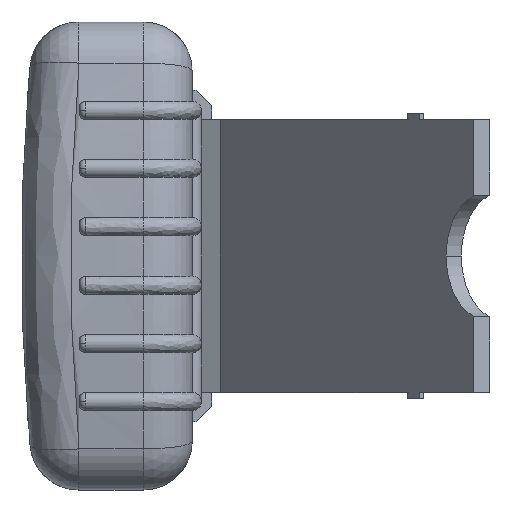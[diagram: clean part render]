
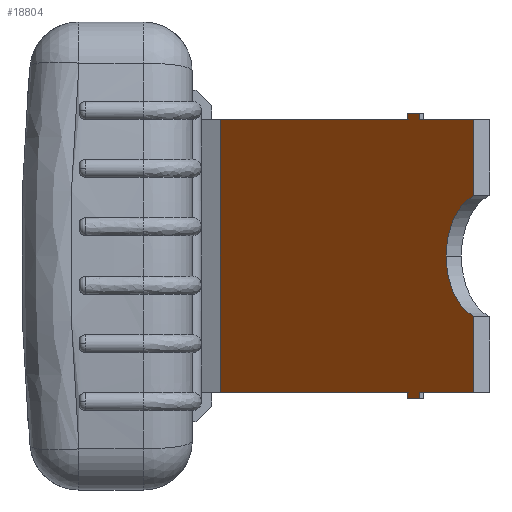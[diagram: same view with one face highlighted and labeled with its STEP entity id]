
A CAD part, left-side view. The second image highlights one B-rep face of the part: STEP entity #18804.
In plain terms, the highlighted planar face has unit normal (-0.625, 0.781, 0) as drawn and (0, -1, 0) by its records, which use the part's own axes.
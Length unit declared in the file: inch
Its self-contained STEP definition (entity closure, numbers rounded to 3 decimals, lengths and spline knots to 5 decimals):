
#39 = VECTOR ( 'NONE', #4089, 39.37008 ) ;
#89 = DIRECTION ( 'NONE',  ( 0., 0., -1. ) ) ;
#385 = VERTEX_POINT ( 'NONE', #7108 ) ;
#402 = DIRECTION ( 'NONE',  ( 0., 0., -1. ) ) ;
#414 = VECTOR ( 'NONE', #14756, 39.37008 ) ;
#417 = DIRECTION ( 'NONE',  ( 0., 0., -1. ) ) ;
#499 = EDGE_LOOP ( 'NONE', ( #8952, #19107, #3227, #3693, #5605, #21690, #9139, #8688, #21035, #5328, #14258, #5386, #16907, #17677, #7363 ) ) ;
#701 = LINE ( 'NONE', #20846, #9585 ) ;
#902 = VERTEX_POINT ( 'NONE', #12281 ) ;
#1197 = EDGE_CURVE ( 'NONE', #902, #385, #11917, .T. ) ;
#1366 = CARTESIAN_POINT ( 'NONE',  ( 0.915, -0.0625, -0.76923 ) ) ;
#2218 = CARTESIAN_POINT ( 'NONE',  ( -0.875, -0.0625, 1.271 ) ) ;
#2350 = LINE ( 'NONE', #14943, #6261 ) ;
#2401 = CARTESIAN_POINT ( 'NONE',  ( 0.915, -0.0625, -0.64423 ) ) ;
#2477 = DIRECTION ( 'NONE',  ( -1., 0., 0. ) ) ;
#2597 = LINE ( 'NONE', #3785, #19350 ) ;
#2702 = CARTESIAN_POINT ( 'NONE',  ( 0.875, -0.0625, 1.271 ) ) ;
#3159 = VECTOR ( 'NONE', #89, 39.37008 ) ;
#3227 = ORIENTED_EDGE ( 'NONE', *, *, #6380, .T. ) ;
#3398 = CARTESIAN_POINT ( 'NONE',  ( -1., -0.0625, -1.32549 ) ) ;
#3507 = VECTOR ( 'NONE', #13217, 39.37008 ) ;
#3649 = VERTEX_POINT ( 'NONE', #5104 ) ;
#3693 = ORIENTED_EDGE ( 'NONE', *, *, #12924, .T. ) ;
#3713 = CARTESIAN_POINT ( 'NONE',  ( 0., -0.0625, -1.45029 ) ) ;
#3785 = CARTESIAN_POINT ( 'NONE',  ( -0.875, -0.0625, 1.3435 ) ) ;
#3926 = VECTOR ( 'NONE', #6245, 39.37008 ) ;
#4073 = EDGE_CURVE ( 'NONE', #11611, #3649, #18885, .T. ) ;
#4089 = DIRECTION ( 'NONE',  ( 0., 0., -1. ) ) ;
#4290 = VERTEX_POINT ( 'NONE', #5865 ) ;
#4413 = PLANE ( 'NONE',  #9778 ) ;
#4448 = LINE ( 'NONE', #3398, #3926 ) ;
#4657 = LINE ( 'NONE', #7429, #13564 ) ;
#4835 = VERTEX_POINT ( 'NONE', #2702 ) ;
#5104 = CARTESIAN_POINT ( 'NONE',  ( 0., -0.0625, -1.04429 ) ) ;
#5328 = ORIENTED_EDGE ( 'NONE', *, *, #7082, .F. ) ;
#5386 = ORIENTED_EDGE ( 'NONE', *, *, #1197, .F. ) ;
#5387 = DIRECTION ( 'NONE',  ( 0., 0., 1. ) ) ;
#5403 = CARTESIAN_POINT ( 'NONE',  ( -0.915, -0.0625, -0.64423 ) ) ;
#5569 = EDGE_CURVE ( 'NONE', #902, #6580, #13093, .T. ) ;
#5605 = ORIENTED_EDGE ( 'NONE', *, *, #16850, .F. ) ;
#5700 = VERTEX_POINT ( 'NONE', #12491 ) ;
#5853 = EDGE_CURVE ( 'NONE', #17244, #11611, #4448, .T. ) ;
#5865 = CARTESIAN_POINT ( 'NONE',  ( 0.915, -0.0625, -0.64423 ) ) ;
#6050 = VERTEX_POINT ( 'NONE', #12487 ) ;
#6245 = DIRECTION ( 'NONE',  ( 1., 0., 0. ) ) ;
#6261 = VECTOR ( 'NONE', #13271, 39.37008 ) ;
#6345 = CARTESIAN_POINT ( 'NONE',  ( -0.915, -0.0625, -0.76923 ) ) ;
#6380 = EDGE_CURVE ( 'NONE', #3649, #19321, #19868, .T. ) ;
#6580 = VERTEX_POINT ( 'NONE', #6345 ) ;
#7082 = EDGE_CURVE ( 'NONE', #15794, #4835, #2350, .T. ) ;
#7108 = CARTESIAN_POINT ( 'NONE',  ( -0.875, -0.0625, -0.64423 ) ) ;
#7145 = DIRECTION ( 'NONE',  ( 1., 0., 0. ) ) ;
#7246 = CARTESIAN_POINT ( 'NONE',  ( 0., -0.0625, -1.45029 ) ) ;
#7289 = LINE ( 'NONE', #11092, #20131 ) ;
#7363 = ORIENTED_EDGE ( 'NONE', *, *, #10922, .T. ) ;
#7429 = CARTESIAN_POINT ( 'NONE',  ( 0.875, -0.0625, 1.3435 ) ) ;
#7662 = EDGE_CURVE ( 'NONE', #6580, #10388, #13857, .T. ) ;
#7761 = DIRECTION ( 'NONE',  ( 0., 0., 1. ) ) ;
#7955 = VECTOR ( 'NONE', #7145, 39.37008 ) ;
#8274 = CARTESIAN_POINT ( 'NONE',  ( 0.875, -0.0625, -0.64423 ) ) ;
#8531 = AXIS2_PLACEMENT_3D ( 'NONE', #3713, #15392, #5387 ) ;
#8688 = ORIENTED_EDGE ( 'NONE', *, *, #18848, .T. ) ;
#8778 = LINE ( 'NONE', #11340, #414 ) ;
#8929 = DIRECTION ( 'NONE',  ( 0., 0., 1. ) ) ;
#8952 = ORIENTED_EDGE ( 'NONE', *, *, #5853, .T. ) ;
#9139 = ORIENTED_EDGE ( 'NONE', *, *, #16333, .F. ) ;
#9379 = VECTOR ( 'NONE', #12813, 39.37008 ) ;
#9437 = DIRECTION ( 'NONE',  ( -1., 0., 0. ) ) ;
#9585 = VECTOR ( 'NONE', #2477, 39.37008 ) ;
#9706 = EDGE_CURVE ( 'NONE', #14099, #5700, #701, .T. ) ;
#9778 = AXIS2_PLACEMENT_3D ( 'NONE', #16109, #17786, #7761 ) ;
#10388 = VERTEX_POINT ( 'NONE', #16099 ) ;
#10430 = CARTESIAN_POINT ( 'NONE',  ( -0.915, -0.0625, -0.64423 ) ) ;
#10922 = EDGE_CURVE ( 'NONE', #10388, #17244, #8778, .T. ) ;
#11092 = CARTESIAN_POINT ( 'NONE',  ( 0.915, -0.0625, -0.64423 ) ) ;
#11340 = CARTESIAN_POINT ( 'NONE',  ( -0.875, -0.0625, 1.3435 ) ) ;
#11394 = CARTESIAN_POINT ( 'NONE',  ( -0.38634, -0.0625, -1.32549 ) ) ;
#11611 = VERTEX_POINT ( 'NONE', #11394 ) ;
#11917 = LINE ( 'NONE', #5403, #7955 ) ;
#12067 = VECTOR ( 'NONE', #417, 39.37008 ) ;
#12281 = CARTESIAN_POINT ( 'NONE',  ( -0.915, -0.0625, -0.64423 ) ) ;
#12485 = DIRECTION ( 'NONE',  ( 0., 0., -1. ) ) ;
#12487 = CARTESIAN_POINT ( 'NONE',  ( 0.875, -0.0625, -1.32549 ) ) ;
#12491 = CARTESIAN_POINT ( 'NONE',  ( 0.875, -0.0625, -0.76923 ) ) ;
#12813 = DIRECTION ( 'NONE',  ( 1., 0., 0. ) ) ;
#12924 = EDGE_CURVE ( 'NONE', #19321, #6050, #16851, .T. ) ;
#13093 = LINE ( 'NONE', #10430, #12067 ) ;
#13217 = DIRECTION ( 'NONE',  ( 1., 0., 0. ) ) ;
#13271 = DIRECTION ( 'NONE',  ( 1., 0., 0. ) ) ;
#13394 = LINE ( 'NONE', #2401, #39 ) ;
#13564 = VECTOR ( 'NONE', #12485, 39.37008 ) ;
#13857 = LINE ( 'NONE', #17764, #9379 ) ;
#14099 = VERTEX_POINT ( 'NONE', #1366 ) ;
#14258 = ORIENTED_EDGE ( 'NONE', *, *, #18574, .T. ) ;
#14604 = AXIS2_PLACEMENT_3D ( 'NONE', #7246, #18971, #8929 ) ;
#14756 = DIRECTION ( 'NONE',  ( 0., 0., -1. ) ) ;
#14943 = CARTESIAN_POINT ( 'NONE',  ( -1.26526, -0.0625, 1.271 ) ) ;
#15220 = CARTESIAN_POINT ( 'NONE',  ( 0.875, -0.0625, 1.3435 ) ) ;
#15392 = DIRECTION ( 'NONE',  ( 0., 1., 0. ) ) ;
#15663 = FACE_OUTER_BOUND ( 'NONE', #499, .T. ) ;
#15794 = VERTEX_POINT ( 'NONE', #2218 ) ;
#16099 = CARTESIAN_POINT ( 'NONE',  ( -0.875, -0.0625, -0.76923 ) ) ;
#16109 = CARTESIAN_POINT ( 'NONE',  ( 0.875, -0.0625, 1.3435 ) ) ;
#16333 = EDGE_CURVE ( 'NONE', #4290, #14099, #13394, .T. ) ;
#16578 = CARTESIAN_POINT ( 'NONE',  ( -1., -0.0625, -1.32549 ) ) ;
#16631 = VERTEX_POINT ( 'NONE', #8274 ) ;
#16850 = EDGE_CURVE ( 'NONE', #5700, #6050, #17048, .T. ) ;
#16851 = LINE ( 'NONE', #16578, #3507 ) ;
#16907 = ORIENTED_EDGE ( 'NONE', *, *, #5569, .T. ) ;
#17048 = LINE ( 'NONE', #15220, #3159 ) ;
#17244 = VERTEX_POINT ( 'NONE', #18859 ) ;
#17677 = ORIENTED_EDGE ( 'NONE', *, *, #7662, .T. ) ;
#17764 = CARTESIAN_POINT ( 'NONE',  ( -0.915, -0.0625, -0.76923 ) ) ;
#17786 = DIRECTION ( 'NONE',  ( 0., 1., 0. ) ) ;
#18574 = EDGE_CURVE ( 'NONE', #15794, #385, #2597, .T. ) ;
#18804 = ADVANCED_FACE ( 'NONE', ( #15663 ), #4413, .F. ) ;
#18848 = EDGE_CURVE ( 'NONE', #4290, #16631, #7289, .T. ) ;
#18855 = CARTESIAN_POINT ( 'NONE',  ( 0.38634, -0.0625, -1.32549 ) ) ;
#18859 = CARTESIAN_POINT ( 'NONE',  ( -0.875, -0.0625, -1.32549 ) ) ;
#18885 = CIRCLE ( 'NONE', #8531, 0.406 ) ;
#18971 = DIRECTION ( 'NONE',  ( 0., 1., 0. ) ) ;
#19107 = ORIENTED_EDGE ( 'NONE', *, *, #4073, .T. ) ;
#19321 = VERTEX_POINT ( 'NONE', #18855 ) ;
#19350 = VECTOR ( 'NONE', #402, 39.37008 ) ;
#19868 = CIRCLE ( 'NONE', #14604, 0.406 ) ;
#19919 = EDGE_CURVE ( 'NONE', #4835, #16631, #4657, .T. ) ;
#20131 = VECTOR ( 'NONE', #9437, 39.37008 ) ;
#20846 = CARTESIAN_POINT ( 'NONE',  ( 0.915, -0.0625, -0.76923 ) ) ;
#21035 = ORIENTED_EDGE ( 'NONE', *, *, #19919, .F. ) ;
#21690 = ORIENTED_EDGE ( 'NONE', *, *, #9706, .F. ) ;
